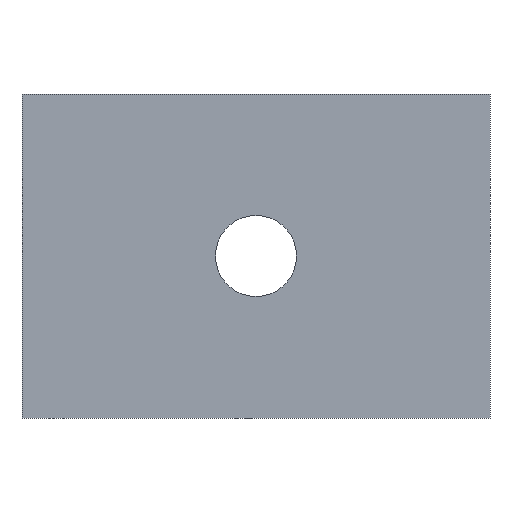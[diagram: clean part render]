
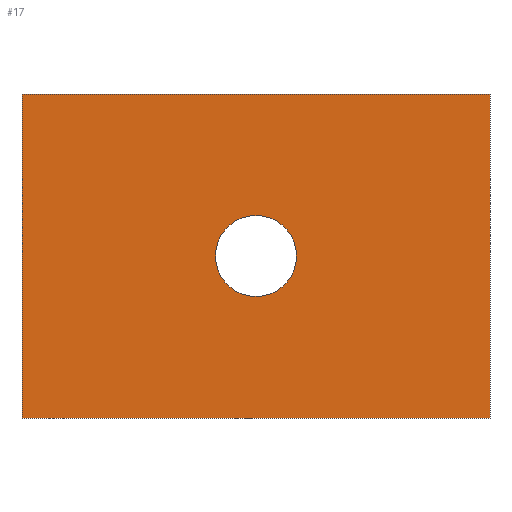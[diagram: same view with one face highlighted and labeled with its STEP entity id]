
A CAD part, front view. The second image highlights one B-rep face of the part: STEP entity #17.
In plain terms, the highlighted planar face has unit normal (0, -1, 0).
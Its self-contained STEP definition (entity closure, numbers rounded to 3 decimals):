
#17 = ADVANCED_FACE('',(#18,#137),#32,.F.);
#18 = FACE_BOUND('',#19,.F.);
#19 = EDGE_LOOP('',(#20,#55,#83,#111));
#20 = ORIENTED_EDGE('',*,*,#21,.F.);
#21 = EDGE_CURVE('',#22,#24,#26,.T.);
#22 = VERTEX_POINT('',#23);
#23 = CARTESIAN_POINT('',(0.,0.,18.));
#24 = VERTEX_POINT('',#25);
#25 = CARTESIAN_POINT('',(0.,0.,0.));
#26 = SURFACE_CURVE('',#27,(#31,#43),.PCURVE_S1.);
#27 = LINE('',#28,#29);
#28 = CARTESIAN_POINT('',(0.,0.,18.));
#29 = VECTOR('',#30,1.);
#30 = DIRECTION('',(0.,0.,-1.));
#31 = PCURVE('',#32,#37);
#32 = PLANE('',#33);
#33 = AXIS2_PLACEMENT_3D('',#34,#35,#36);
#34 = CARTESIAN_POINT('',(0.,0.,0.));
#35 = DIRECTION('',(0.,1.,0.));
#36 = DIRECTION('',(1.,0.,0.));
#37 = DEFINITIONAL_REPRESENTATION('',(#38),#42);
#38 = LINE('',#39,#40);
#39 = CARTESIAN_POINT('',(0.,-18.));
#40 = VECTOR('',#41,1.);
#41 = DIRECTION('',(0.,1.));
#42 = ( GEOMETRIC_REPRESENTATION_CONTEXT(2) 
PARAMETRIC_REPRESENTATION_CONTEXT() REPRESENTATION_CONTEXT('2D SPACE',''
  ) );
#43 = PCURVE('',#44,#49);
#44 = PLANE('',#45);
#45 = AXIS2_PLACEMENT_3D('',#46,#47,#48);
#46 = CARTESIAN_POINT('',(0.,26.,0.));
#47 = DIRECTION('',(1.,0.,-0.));
#48 = DIRECTION('',(0.,-1.,0.));
#49 = DEFINITIONAL_REPRESENTATION('',(#50),#54);
#50 = LINE('',#51,#52);
#51 = CARTESIAN_POINT('',(26.,-18.));
#52 = VECTOR('',#53,1.);
#53 = DIRECTION('',(0.,1.));
#54 = ( GEOMETRIC_REPRESENTATION_CONTEXT(2) 
PARAMETRIC_REPRESENTATION_CONTEXT() REPRESENTATION_CONTEXT('2D SPACE',''
  ) );
#55 = ORIENTED_EDGE('',*,*,#56,.F.);
#56 = EDGE_CURVE('',#57,#22,#59,.T.);
#57 = VERTEX_POINT('',#58);
#58 = CARTESIAN_POINT('',(26.,0.,18.));
#59 = SURFACE_CURVE('',#60,(#64,#71),.PCURVE_S1.);
#60 = LINE('',#61,#62);
#61 = CARTESIAN_POINT('',(26.,0.,18.));
#62 = VECTOR('',#63,1.);
#63 = DIRECTION('',(-1.,0.,0.));
#64 = PCURVE('',#32,#65);
#65 = DEFINITIONAL_REPRESENTATION('',(#66),#70);
#66 = LINE('',#67,#68);
#67 = CARTESIAN_POINT('',(26.,-18.));
#68 = VECTOR('',#69,1.);
#69 = DIRECTION('',(-1.,0.));
#70 = ( GEOMETRIC_REPRESENTATION_CONTEXT(2) 
PARAMETRIC_REPRESENTATION_CONTEXT() REPRESENTATION_CONTEXT('2D SPACE',''
  ) );
#71 = PCURVE('',#72,#77);
#72 = PLANE('',#73);
#73 = AXIS2_PLACEMENT_3D('',#74,#75,#76);
#74 = CARTESIAN_POINT('',(13.,2.5,18.));
#75 = DIRECTION('',(0.,0.,1.));
#76 = DIRECTION('',(1.,0.,-0.));
#77 = DEFINITIONAL_REPRESENTATION('',(#78),#82);
#78 = LINE('',#79,#80);
#79 = CARTESIAN_POINT('',(13.,-2.5));
#80 = VECTOR('',#81,1.);
#81 = DIRECTION('',(-1.,0.));
#82 = ( GEOMETRIC_REPRESENTATION_CONTEXT(2) 
PARAMETRIC_REPRESENTATION_CONTEXT() REPRESENTATION_CONTEXT('2D SPACE',''
  ) );
#83 = ORIENTED_EDGE('',*,*,#84,.F.);
#84 = EDGE_CURVE('',#85,#57,#87,.T.);
#85 = VERTEX_POINT('',#86);
#86 = CARTESIAN_POINT('',(26.,0.,0.));
#87 = SURFACE_CURVE('',#88,(#92,#99),.PCURVE_S1.);
#88 = LINE('',#89,#90);
#89 = CARTESIAN_POINT('',(26.,0.,0.));
#90 = VECTOR('',#91,1.);
#91 = DIRECTION('',(0.,0.,1.));
#92 = PCURVE('',#32,#93);
#93 = DEFINITIONAL_REPRESENTATION('',(#94),#98);
#94 = LINE('',#95,#96);
#95 = CARTESIAN_POINT('',(26.,0.));
#96 = VECTOR('',#97,1.);
#97 = DIRECTION('',(0.,-1.));
#98 = ( GEOMETRIC_REPRESENTATION_CONTEXT(2) 
PARAMETRIC_REPRESENTATION_CONTEXT() REPRESENTATION_CONTEXT('2D SPACE',''
  ) );
#99 = PCURVE('',#100,#105);
#100 = PLANE('',#101);
#101 = AXIS2_PLACEMENT_3D('',#102,#103,#104);
#102 = CARTESIAN_POINT('',(26.,0.,0.));
#103 = DIRECTION('',(-1.,0.,0.));
#104 = DIRECTION('',(0.,1.,0.));
#105 = DEFINITIONAL_REPRESENTATION('',(#106),#110);
#106 = LINE('',#107,#108);
#107 = CARTESIAN_POINT('',(0.,0.));
#108 = VECTOR('',#109,1.);
#109 = DIRECTION('',(0.,-1.));
#110 = ( GEOMETRIC_REPRESENTATION_CONTEXT(2) 
PARAMETRIC_REPRESENTATION_CONTEXT() REPRESENTATION_CONTEXT('2D SPACE',''
  ) );
#111 = ORIENTED_EDGE('',*,*,#112,.F.);
#112 = EDGE_CURVE('',#24,#85,#113,.T.);
#113 = SURFACE_CURVE('',#114,(#118,#125),.PCURVE_S1.);
#114 = LINE('',#115,#116);
#115 = CARTESIAN_POINT('',(0.,0.,0.));
#116 = VECTOR('',#117,1.);
#117 = DIRECTION('',(1.,0.,0.));
#118 = PCURVE('',#32,#119);
#119 = DEFINITIONAL_REPRESENTATION('',(#120),#124);
#120 = LINE('',#121,#122);
#121 = CARTESIAN_POINT('',(0.,0.));
#122 = VECTOR('',#123,1.);
#123 = DIRECTION('',(1.,0.));
#124 = ( GEOMETRIC_REPRESENTATION_CONTEXT(2) 
PARAMETRIC_REPRESENTATION_CONTEXT() REPRESENTATION_CONTEXT('2D SPACE',''
  ) );
#125 = PCURVE('',#126,#131);
#126 = PLANE('',#127);
#127 = AXIS2_PLACEMENT_3D('',#128,#129,#130);
#128 = CARTESIAN_POINT('',(9.192,9.192,0.));
#129 = DIRECTION('',(0.,0.,1.));
#130 = DIRECTION('',(1.,0.,-0.));
#131 = DEFINITIONAL_REPRESENTATION('',(#132),#136);
#132 = LINE('',#133,#134);
#133 = CARTESIAN_POINT('',(-9.192,-9.192));
#134 = VECTOR('',#135,1.);
#135 = DIRECTION('',(1.,0.));
#136 = ( GEOMETRIC_REPRESENTATION_CONTEXT(2) 
PARAMETRIC_REPRESENTATION_CONTEXT() REPRESENTATION_CONTEXT('2D SPACE',''
  ) );
#137 = FACE_BOUND('',#138,.F.);
#138 = EDGE_LOOP('',(#139));
#139 = ORIENTED_EDGE('',*,*,#140,.F.);
#140 = EDGE_CURVE('',#141,#141,#143,.T.);
#141 = VERTEX_POINT('',#142);
#142 = CARTESIAN_POINT('',(13.,0.,11.25));
#143 = SURFACE_CURVE('',#144,(#149,#156),.PCURVE_S1.);
#144 = CIRCLE('',#145,2.25);
#145 = AXIS2_PLACEMENT_3D('',#146,#147,#148);
#146 = CARTESIAN_POINT('',(13.,0.,9.));
#147 = DIRECTION('',(0.,1.,0.));
#148 = DIRECTION('',(0.,-0.,1.));
#149 = PCURVE('',#32,#150);
#150 = DEFINITIONAL_REPRESENTATION('',(#151),#155);
#151 = CIRCLE('',#152,2.25);
#152 = AXIS2_PLACEMENT_2D('',#153,#154);
#153 = CARTESIAN_POINT('',(13.,-9.));
#154 = DIRECTION('',(0.,-1.));
#155 = ( GEOMETRIC_REPRESENTATION_CONTEXT(2) 
PARAMETRIC_REPRESENTATION_CONTEXT() REPRESENTATION_CONTEXT('2D SPACE',''
  ) );
#156 = PCURVE('',#157,#162);
#157 = CYLINDRICAL_SURFACE('',#158,2.25);
#158 = AXIS2_PLACEMENT_3D('',#159,#160,#161);
#159 = CARTESIAN_POINT('',(13.,-1.,9.));
#160 = DIRECTION('',(0.,1.,0.));
#161 = DIRECTION('',(0.,-0.,1.));
#162 = DEFINITIONAL_REPRESENTATION('',(#163),#167);
#163 = LINE('',#164,#165);
#164 = CARTESIAN_POINT('',(0.,1.));
#165 = VECTOR('',#166,1.);
#166 = DIRECTION('',(1.,0.));
#167 = ( GEOMETRIC_REPRESENTATION_CONTEXT(2) 
PARAMETRIC_REPRESENTATION_CONTEXT() REPRESENTATION_CONTEXT('2D SPACE',''
  ) );
